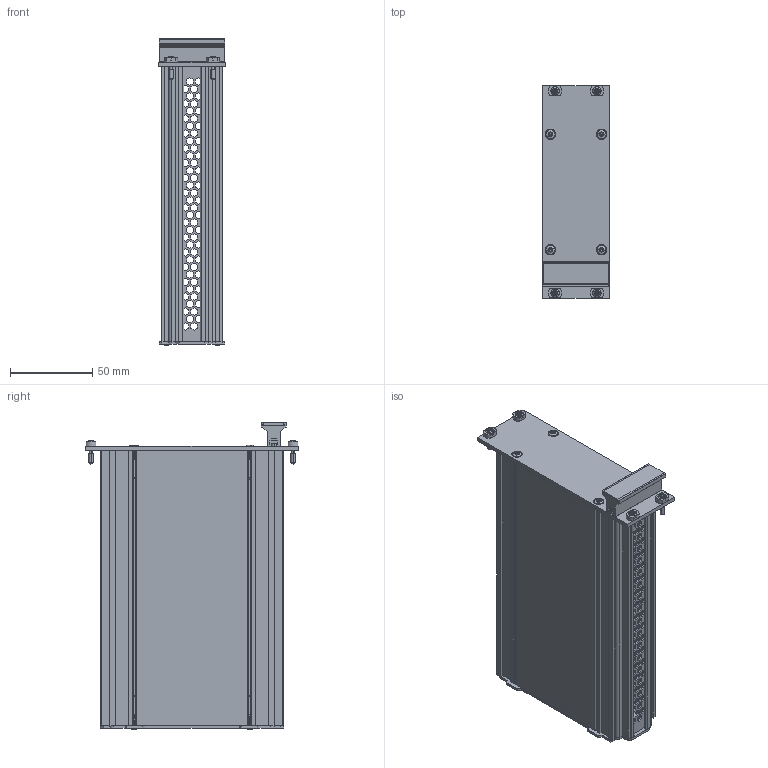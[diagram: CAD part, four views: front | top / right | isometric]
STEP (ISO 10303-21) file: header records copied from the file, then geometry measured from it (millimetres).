
FILE_DESCRIPTION (( 'STEP AP203' ), '1' );
FILE_NAME ('框架式模件盒 8HP 通风 30816731.STEP', '2026-03-31T08:48:25', ( 'Windows User' ), ( 'P R C' ), 'SwSTEP 2.0', 'SolidWorks 2013', '' );
FILE_SCHEMA (( 'CONFIG_CONTROL_DESIGN' ));
Length unit declared in the file: millimetre
Products named in the file (15): V倰臏參忒呿蹋璃; ISO 7046-2 十字槽沉头螺钉_M2.5×6; 綴醱啣 す啣; 醱啣蚾饜极 8TE; 耀璃碟耜啣 BT3U 2.0; 耀璃碟ヶ醱啣; 耀璃碟裔啣; M2.5-12醱啣蹟隊-坋趼; 8TE-V倰臏參忒蚾饜极; 8TE-梓齪; M2.5踢扽邳埴杶簽; M3x20  圉麥芛赻坶蹟佪248125011; 8TE-V倰臏參忒-B; V倰臏參忒蹟謂え; 框架式模件盒 8HP 通风 30816731
Assembly tree (31 placements, depth 4):
  框架式模件盒 8HP 通风 30816731
    醱啣蚾饜极 8TE
      耀璃碟ヶ醱啣
      8TE-V倰臏參忒蚾饜极
        8TE-V倰臏參忒-B
        8TE-梓齪
        ISO 7046-2 十字槽沉头螺钉_M2.5×6  x2
        V倰臏參忒蹟謂え  x2
        V倰臏參忒呿蹋璃
      M2.5踢扽邳埴杶簽  x4
      M2.5-12醱啣蹟隊-坋趼  x4
    綴醱啣 す啣
    耀璃碟耜啣 BT3U 2.0  x2
    M3x20  圉麥芛赻坶蹟佪248125011  x8
    耀璃碟裔啣  x2
Bounding box: 40.34 x 128.7 x 185.52 mm (x, y, z)
Volume: 127752.3 mm3; surface area: 148405.3 mm2
Topology: 29 solids, 29 shells, 2284 faces, 6562 edges, 4328 vertices
Faces by surface type: plane 1401, cylinder 629, cone 142, bspline 84, torus 20, sphere 8
Entity records: 36871 total; most frequent: CARTESIAN_POINT 9130, ORIENTED_EDGE 5538, DIRECTION 4974, EDGE_CURVE 2769, VECTOR 2186, LINE 2186, VERTEX_POINT 1819, AXIS2_PLACEMENT_3D 1394
